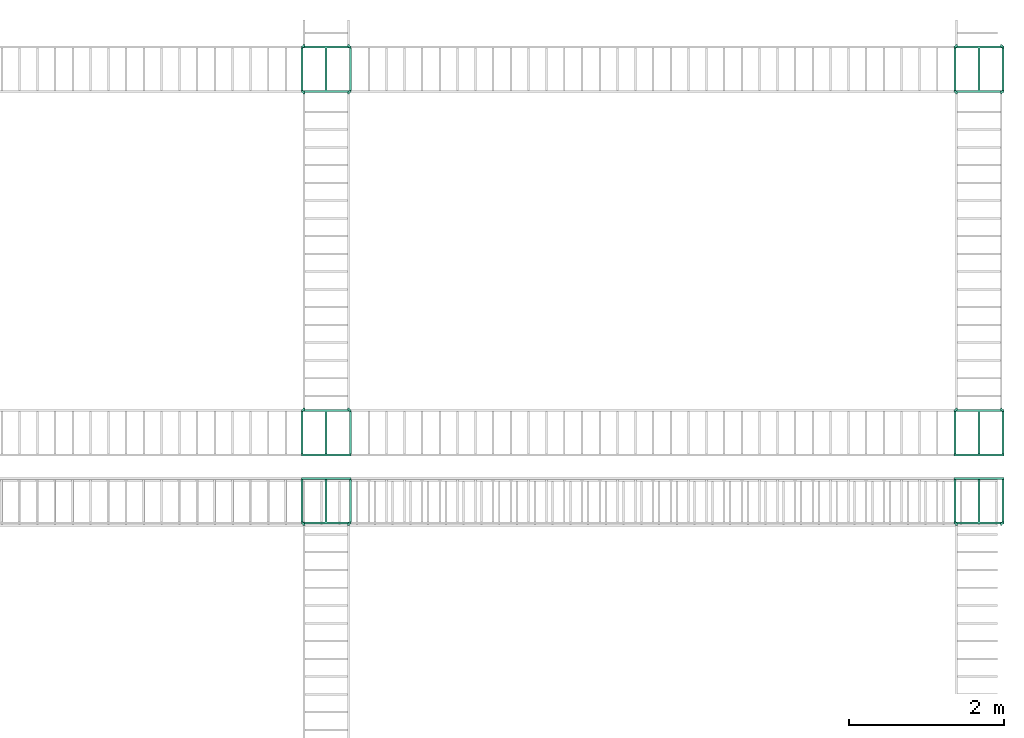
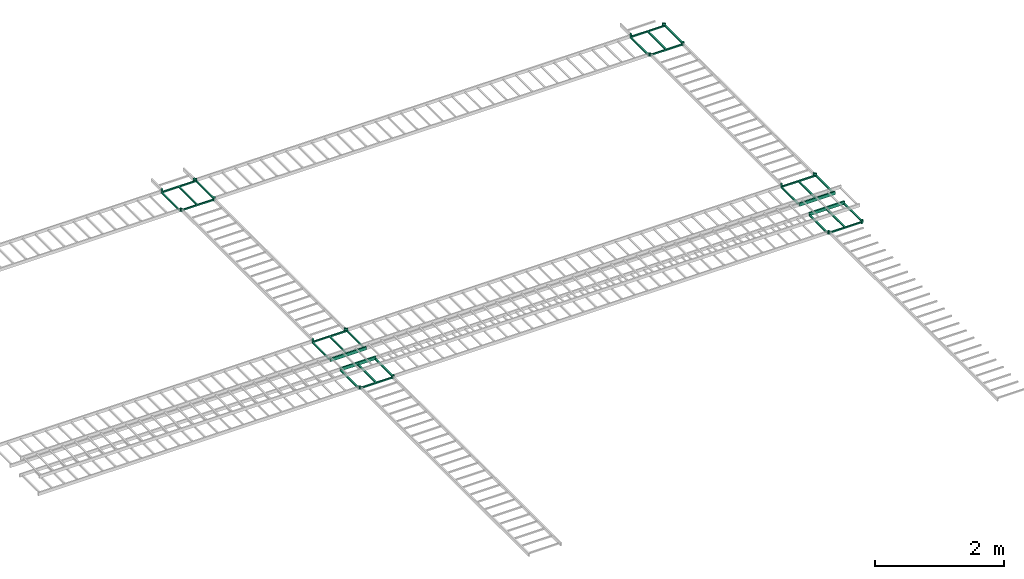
# One storey, part 2 of 7: 6 flow fittings.
"""IFC2X3 building model written with IfcOpenShell, lengths in millimetres."""

from ifc_helpers import new_model, entity, si_unit, converted_unit, derived_unit, direction, frame, origin_with_axes, place, context, subcontext, project, spatial, open_shell, surface_model, source, transform, mapped, type_object, element, save


model = new_model("IFC2X3")

# Units and contexts
model_context = context("Model", 3, precision=0.01, world=frame((0.0, 4.29681676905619e-09, 0.0)), true_north=direction((4.01073788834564e-13, 1.0)))
plan_context = context("Plan", 3, precision=0.01, world=frame((0.0, 4.29681676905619e-09, 0.0)), true_north=direction((4.01073788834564e-13, 1.0)))
body_context = subcontext(model_context, "Body", "Model", "MODEL_VIEW")
ifc_project = project(units=[converted_unit("PLANEANGLEUNIT", "DEGREE", entity("IfcPositiveLengthMeasure", 0.0174532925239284), si_unit("PLANEANGLEUNIT", "RADIAN"), dimensions=[0, 0, 0, 0, 0, 0, 0]), si_unit("AREAUNIT", "SQUARE_METRE"), si_unit("LENGTHUNIT", "METRE", prefix="MILLI"), si_unit("MASSUNIT", "GRAM", prefix="KILO"), si_unit("POWERUNIT", "WATT"), si_unit("PRESSUREUNIT", "PASCAL", prefix="KILO"), si_unit("FORCEUNIT", "NEWTON", prefix="KILO"), si_unit("ELECTRICVOLTAGEUNIT", "VOLT"), si_unit("ELECTRICCURRENTUNIT", "AMPERE"), si_unit("THERMODYNAMICTEMPERATUREUNIT", "DEGREE_CELSIUS"), si_unit("TIMEUNIT", "SECOND"), si_unit("VOLUMEUNIT", "CUBIC_METRE"), derived_unit("LINEARVELOCITYUNIT", [(si_unit("LENGTHUNIT", "METRE"), 1), (si_unit("TIMEUNIT", "SECOND"), -1)]), derived_unit("VOLUMETRICFLOWRATEUNIT", [(si_unit("VOLUMEUNIT", "CUBIC_METRE"), 1), (si_unit("TIMEUNIT", "SECOND"), -1)]), derived_unit("THERMALTRANSMITTANCEUNIT", [(si_unit("POWERUNIT", "WATT"), 1), (si_unit("THERMODYNAMICTEMPERATUREUNIT", "KELVIN"), -1), (si_unit("AREAUNIT", "SQUARE_METRE"), -1)]), derived_unit("SOUNDPRESSUREUNIT", [(si_unit("PRESSUREUNIT", "PASCAL"), 1)])], contexts=[model_context, plan_context])

# Site, building, storey
site_placement = place(None, frame((0.0, -4.29681676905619e-09, 0.0), z_axis=(0.0, 0.0, 1.0), x_axis=(1.0, 0.0, 0.0)))
site = spatial("IfcSite", under=ifc_project, at=site_placement, Name="ENGM", CompositionType="ELEMENT")
building_placement = place(site_placement, frame((0.0, 4.29681676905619e-09, 0.0), z_axis=(0.0, 0.0, 1.0), x_axis=(1.0, 0.0, 0.0)))
building = spatial("IfcBuilding", under=site, at=building_placement, Name="TS", CompositionType="ELEMENT")
storey_placement = place(building_placement, frame((0.0, 0.0, 207370.0), z_axis=(0.0, 0.0, 1.0), x_axis=(1.0, 0.0, 0.0)))
storey = spatial("IfcBuildingStorey", under=building, at=storey_placement, Name="Nivå E", CompositionType="ELEMENT", Elevation=207370.0)

# Flow fittings
cable_carrier_fitting_type_1 = type_object("IfcCableCarrierFittingType", Name="10mm Radius", PredefinedType="TEE")
shared_shape_1 = source(origin_with_axes(), body_context, "Body", "SurfaceModel", [
    surface_model("IfcShellBasedSurfaceModel", [(322.7, -274.60001, -4.6), (322.7, 274.60001, -4.6), (297.3, 274.60001, -4.6), (297.3, -274.60001, -4.6), (297.3, -274.60001, -30.0), (297.3, 274.60001, -30.0), (322.7, 274.60001, -30.0), (322.7, -274.60001, -30.0), (12.7, -274.60001, -4.6), (12.7, 274.60001, -4.6), (-12.7, 274.60001, -4.6), (-12.7, -274.60001, -4.6), (-12.7, -274.60001, -30.0), (-12.7, 274.60001, -30.0), (12.7, 274.60001, -30.0), (12.7, -274.60001, -30.0), (-297.3, -274.60001, -4.6), (-297.3, 274.60001, -4.6), (-322.7, 274.60001, -4.6), (-322.7, -274.60001, -4.6), (-322.7, -274.60001, -30.0), (-322.7, 274.60001, -30.0), (-297.3, 274.60001, -30.0), (-297.3, -274.60001, -30.0), (-310.0, -274.60001, 30.0), (-320.00002, -274.60001, 30.0), (-310.0, -300.0, 30.0), (-320.00002, -300.0, 30.0), (-307.4118, -300.34073, 30.0), (-304.99999, -301.33975, 30.0), (-292.3, -279.34271, 30.0), (-300.83781, -275.80622, 30.0), (-279.34271, -292.3, 30.0), (-284.96842, -284.96842, 30.0), (-302.92893, -302.92893, 30.0), (-301.33975, -304.99999, 30.0), (-300.34073, -307.4118, 30.0), (-275.80622, -300.83781, 30.0), (-274.60001, -310.0, 30.0), (-300.0, -310.0, 30.0), (-300.0, -320.00002, 30.0), (-274.60001, -320.00002, 30.0), (304.99999, -301.33975, 30.0), (307.4118, -300.34073, 30.0), (300.83781, -275.80622, 30.0), (292.3, -279.34271, 30.0), (284.96842, -284.96842, 30.0), (302.92893, -302.92893, 30.0), (320.00002, -274.60001, 30.0), (310.0, -274.60001, 30.0), (310.0, -300.0, 30.0), (320.00002, -300.0, 30.0), (279.34271, -292.3, 30.0), (300.34073, -307.4118, 30.0), (275.80622, -300.83781, 30.0), (274.60001, -310.0, 30.0), (300.0, -310.0, 30.0), (274.60001, -320.00002, 30.0), (300.0, -320.00002, 30.0), (301.33975, -304.99999, 30.0), (320.00002, 300.0, 30.0), (-320.00002, 300.0, 30.0), (320.00002, 274.60001, 30.0), (-320.00002, 274.60001, 30.0), (-300.0, -320.00002, -30.0), (-300.0, -310.0, -30.0), (-274.60001, -320.00002, -30.0), (-274.60001, -310.0, -30.0), (-274.96527, -304.92779, -30.0), (-300.34073, -307.4118, -30.0), (-276.0418, -300.0, -30.0), (-301.33975, -304.99999, -30.0), (300.0, -320.00002, -30.0), (274.60001, -320.00002, -30.0), (300.0, -310.0, -30.0), (274.60001, -310.0, -30.0), (274.96527, -304.92779, -30.0), (300.34073, -307.4118, -30.0), (276.0418, -300.0, -30.0), (301.33975, -304.99999, -30.0), (-304.99999, -301.33975, -30.0), (-307.4118, -300.34073, -30.0), (-320.00002, -274.60001, -30.0), (-302.92893, -302.92893, -30.0), (-320.00002, -300.0, -30.0), (-310.0, -300.0, -30.0), (320.00002, -274.60001, -30.0), (304.99999, -301.33975, -30.0), (302.92893, -302.92893, -30.0), (307.4118, -300.34073, -30.0), (310.0, -300.0, -30.0), (320.00002, -300.0, -30.0), (320.00002, 274.60001, -30.0), (-320.00002, 274.60001, -30.0), (-320.00002, 300.0, -30.0), (320.00002, 300.0, -30.0), (-276.0418, -300.0, -4.6), (-279.69674, -291.70049, -4.6), (-285.34038, -284.60191, -4.6), (-292.60234, -279.17011, -4.6), (-301.00605, -275.76158, -4.6), (-310.0, -274.60001, -4.6), (310.0, -274.60001, -4.6), (-310.0, -300.0, -4.6), (310.0, -300.0, -4.6), (301.00605, -275.76158, -4.6), (292.60234, -279.17011, -4.6), (285.34038, -284.60191, -4.6), (279.69674, -291.70049, -4.6), (276.0418, -300.0, -4.6)], [open_shell([[[0, 1, 2]], [[2, 3, 0]], [[4, 5, 6]], [[6, 7, 4]], [[2, 1, 5]], [[6, 5, 1]], [[3, 2, 5]], [[5, 4, 3]], [[0, 3, 7]], [[4, 7, 3]], [[1, 0, 7]], [[7, 6, 1]], [[8, 9, 10]], [[10, 11, 8]], [[12, 13, 14]], [[14, 15, 12]], [[10, 9, 13]], [[14, 13, 9]], [[11, 10, 13]], [[13, 12, 11]], [[8, 11, 15]], [[12, 15, 11]], [[9, 8, 15]], [[15, 14, 9]], [[16, 17, 18]], [[18, 19, 16]], [[20, 21, 22]], [[22, 23, 20]], [[18, 17, 21]], [[22, 21, 17]], [[19, 18, 21]], [[21, 20, 19]], [[16, 19, 23]], [[20, 23, 19]], [[17, 16, 23]], [[23, 22, 17]], [[24, 25, 26]], [[27, 26, 25]], [[24, 26, 28]], [[29, 30, 31]], [[32, 33, 34]], [[30, 34, 33]], [[31, 28, 29]], [[31, 24, 28]], [[35, 32, 34]], [[35, 36, 37]], [[35, 37, 32]], [[37, 36, 38]], [[39, 40, 41]], [[39, 41, 38]], [[36, 39, 38]], [[34, 30, 29]], [[42, 43, 44]], [[42, 44, 45]], [[45, 46, 47]], [[48, 49, 50]], [[43, 50, 49]], [[50, 51, 48]], [[49, 44, 43]], [[46, 52, 47]], [[53, 54, 55]], [[56, 57, 58]], [[57, 56, 55]], [[53, 55, 56]], [[42, 45, 47]], [[53, 59, 54]], [[52, 59, 47]], [[52, 54, 59]], [[60, 61, 62]], [[63, 62, 61]], [[64, 65, 66]], [[66, 65, 67]], [[68, 69, 70]], [[67, 65, 68]], [[69, 71, 70]], [[68, 65, 69]], [[72, 73, 74]], [[74, 73, 75]], [[76, 77, 74]], [[78, 79, 77]], [[77, 76, 78]], [[76, 74, 75]], [[80, 81, 82]], [[83, 80, 70]], [[84, 82, 85]], [[82, 81, 85]], [[80, 82, 70]], [[82, 86, 70]], [[87, 88, 78]], [[89, 87, 86]], [[89, 86, 90]], [[86, 87, 78]], [[86, 91, 90]], [[78, 70, 86]], [[79, 78, 88]], [[71, 83, 70]], [[92, 93, 94]], [[94, 95, 92]], [[40, 39, 65]], [[65, 64, 40]], [[41, 40, 64]], [[64, 66, 41]], [[38, 41, 67]], [[66, 67, 41]], [[38, 67, 68]], [[70, 96, 68]], [[38, 68, 96]], [[38, 96, 37]], [[32, 97, 33]], [[32, 37, 96]], [[97, 32, 96]], [[98, 99, 30]], [[100, 101, 24]], [[99, 100, 31]], [[33, 98, 30]], [[30, 99, 31]], [[100, 24, 31]], [[98, 33, 97]], [[49, 48, 102]], [[25, 24, 101]], [[102, 86, 82]], [[86, 102, 48]], [[101, 82, 25]], [[82, 101, 102]], [[27, 25, 84]], [[82, 84, 25]], [[26, 27, 103]], [[103, 84, 85]], [[84, 103, 27]], [[28, 26, 103]], [[29, 28, 103]], [[81, 103, 85]], [[103, 81, 80]], [[83, 103, 80]], [[34, 29, 103]], [[35, 34, 83]], [[71, 36, 35]], [[36, 69, 39]], [[71, 35, 83]], [[36, 71, 69]], [[39, 69, 65]], [[103, 83, 34]], [[53, 56, 77]], [[59, 53, 79]], [[77, 56, 74]], [[53, 77, 79]], [[59, 79, 88]], [[88, 47, 59]], [[42, 47, 104]], [[104, 43, 42]], [[43, 104, 50]], [[104, 87, 89]], [[89, 90, 104]], [[87, 104, 88]], [[47, 88, 104]], [[51, 50, 104]], [[104, 90, 91]], [[104, 91, 51]], [[48, 51, 86]], [[91, 86, 51]], [[49, 102, 105]], [[44, 105, 106]], [[45, 106, 107]], [[49, 105, 44]], [[44, 106, 45]], [[107, 46, 45]], [[107, 108, 46]], [[109, 78, 76]], [[109, 76, 55]], [[55, 76, 75]], [[108, 52, 46]], [[108, 109, 52]], [[52, 109, 54]], [[109, 55, 54]], [[57, 55, 75]], [[75, 73, 57]], [[58, 57, 73]], [[73, 72, 58]], [[56, 58, 72]], [[72, 74, 56]], [[61, 60, 95]], [[95, 94, 61]], [[63, 61, 94]], [[94, 93, 63]], [[62, 63, 93]], [[93, 92, 62]], [[60, 62, 92]], [[92, 95, 60]], [[105, 102, 101]], [[106, 105, 100]], [[108, 107, 98]], [[109, 108, 97]], [[106, 99, 107]], [[100, 99, 106]], [[101, 100, 105]], [[97, 96, 109]], [[98, 97, 108]], [[99, 98, 107]], [[109, 96, 70]], [[70, 78, 109]]])]),
])
for number, where, z_axis, x_axis, name in (
    (1, (720501.36631, 440025.59175, 2635.0), (0.0, 0.0, 1.0), (1.0, 0.0, 0.0), "10mm Radius"),
    (2, (728901.36631, 440025.59175, 2635.0), (0.0, 0.0, 1.0), (1.0, 0.0, 0.0), "10mm Radius"),
    (3, (720501.36631, 440899.11712, 2635.0), (0.0, 0.0, 1.0), (-1.0, 0.0, 0.0), "10mm Radius"),
    (4, (728901.36631, 440899.11712, 2635.0), (0.0, 0.0, 1.0), (-1.0, 0.0, 0.0), "10mm Radius"),
):
    element("IfcFlowFitting", number, at=place(storey_placement, frame(where, z_axis=z_axis, x_axis=x_axis)), inside=storey, type_object=cable_carrier_fitting_type_1, Name=name, context=body_context, shape_type="MappedRepresentation", body=[
        mapped(shared_shape_1, transform((0.0, 0.0, 0.0), scale=1.0)),
    ])
cable_carrier_fitting_type_2 = type_object("IfcCableCarrierFittingType", Name="10mm Radius", PredefinedType="CROSS")
shared_shape_2 = source(origin_with_axes(), body_context, "Body", "SurfaceModel", [
    surface_model("IfcShellBasedSurfaceModel", [(322.7, -274.60001, -4.6), (322.7, 274.60001, -4.6), (297.3, 274.60001, -4.6), (297.3, -274.60001, -4.6), (297.3, -274.60001, -30.0), (297.3, 274.60001, -30.0), (322.7, 274.60001, -30.0), (322.7, -274.60001, -30.0), (-12.7, -274.60001, -30.0), (-12.7, 274.60001, -30.0), (12.7, 274.60001, -30.0), (12.7, -274.60001, -30.0), (-12.7, 274.60001, -4.6), (12.7, 274.60001, -4.6), (-12.7, -274.60001, -4.6), (12.7, -274.60001, -4.6), (-297.3, -274.60001, -4.6), (-297.3, 274.60001, -4.6), (-322.7, 274.60001, -4.6), (-322.7, -274.60001, -4.6), (-322.7, -274.60001, -30.0), (-322.7, 274.60001, -30.0), (-297.3, 274.60001, -30.0), (-297.3, -274.60001, -30.0), (-310.0, -274.60001, 30.0), (-320.00002, -274.60001, 30.0), (-310.0, -300.0, 30.0), (-320.00002, -300.0, 30.0), (-307.4118, -300.34073, 30.0), (-304.99999, -301.33975, 30.0), (-292.3, -279.34271, 30.0), (-300.83781, -275.80622, 30.0), (-279.34271, -292.3, 30.0), (-284.96842, -284.96842, 30.0), (-302.92893, -302.92893, 30.0), (-301.33975, -304.99999, 30.0), (-300.34073, -307.4118, 30.0), (-275.80622, -300.83781, 30.0), (-274.60001, -310.0, 30.0), (-300.0, -310.0, 30.0), (-300.0, -320.00002, 30.0), (-274.60001, -320.00002, 30.0), (304.99999, -301.33975, 30.0), (307.4118, -300.34073, 30.0), (300.83781, -275.80622, 30.0), (292.3, -279.34271, 30.0), (284.96842, -284.96842, 30.0), (302.92893, -302.92893, 30.0), (320.00002, -274.60001, 30.0), (310.0, -274.60001, 30.0), (310.0, -300.0, 30.0), (320.00002, -300.0, 30.0), (279.34271, -292.3, 30.0), (300.34073, -307.4118, 30.0), (275.80622, -300.83781, 30.0), (274.60001, -310.0, 30.0), (300.0, -310.0, 30.0), (274.60001, -320.00002, 30.0), (300.0, -320.00002, 30.0), (301.33975, -304.99999, 30.0), (-300.0, -320.00002, -30.0), (-300.0, -310.0, -30.0), (-274.60001, -320.00002, -30.0), (-274.60001, -310.0, -30.0), (-274.96527, -304.92779, -30.0), (-300.34073, -307.4118, -30.0), (-276.0418, -300.0, -30.0), (-301.33975, -304.99999, -30.0), (300.0, -320.00002, -30.0), (274.60001, -320.00002, -30.0), (300.0, -310.0, -30.0), (274.60001, -310.0, -30.0), (274.96527, -304.92779, -30.0), (300.34073, -307.4118, -30.0), (276.0418, -300.0, -30.0), (301.33975, -304.99999, -30.0), (-304.99999, -301.33975, -30.0), (-307.4118, -300.34073, -30.0), (-320.00002, -274.60001, -30.0), (-302.92893, -302.92893, -30.0), (-320.00002, -300.0, -30.0), (-310.0, -300.0, -30.0), (320.00002, -274.60001, -30.0), (304.99999, -301.33975, -30.0), (302.92893, -302.92893, -30.0), (307.4118, -300.34073, -30.0), (310.0, -300.0, -30.0), (320.00002, -300.0, -30.0), (-276.0418, -300.0, -4.6), (-279.69674, -291.70049, -4.6), (-285.34038, -284.60191, -4.6), (-292.60234, -279.17011, -4.6), (-301.00605, -275.76158, -4.6), (-310.0, -274.60001, -4.6), (310.0, -274.60001, -4.6), (-310.0, -300.0, -4.6), (310.0, -300.0, -4.6), (301.00605, -275.76158, -4.6), (292.60234, -279.17011, -4.6), (285.34038, -284.60191, -4.6), (279.69674, -291.70049, -4.6), (276.0418, -300.0, -4.6), (-300.34073, 307.4118, 30.0), (-301.33975, 304.99999, 30.0), (-275.80622, 300.83781, 30.0), (-279.34271, 292.3, 30.0), (-302.92893, 302.92893, 30.0), (-274.60001, 320.00002, 30.0), (-300.0, 320.00002, 30.0), (-300.0, 310.0, 30.0), (-274.60001, 310.0, 30.0), (-304.99999, 301.33975, 30.0), (-292.3, 279.34271, 30.0), (-310.0, 300.0, 30.0), (-320.00002, 300.0, 30.0), (-320.00002, 274.60001, 30.0), (-310.0, 274.60001, 30.0), (-307.4118, 300.34073, 30.0), (-300.83781, 275.80622, 30.0), (-284.96842, 284.96842, 30.0), (274.60001, 320.00002, 30.0), (300.0, 310.0, 30.0), (300.0, 320.00002, 30.0), (274.60001, 310.0, 30.0), (300.34073, 307.4118, 30.0), (275.80622, 300.83781, 30.0), (279.34271, 292.3, 30.0), (302.92893, 302.92893, 30.0), (301.33975, 304.99999, 30.0), (292.3, 279.34271, 30.0), (304.99999, 301.33975, 30.0), (284.96842, 284.96842, 30.0), (300.83781, 275.80622, 30.0), (307.4118, 300.34073, 30.0), (310.0, 300.0, 30.0), (310.0, 274.60001, 30.0), (320.00002, 274.60001, 30.0), (320.00002, 300.0, 30.0), (-276.0418, 300.0, -30.0), (-320.00002, 274.60001, -30.0), (-304.99999, 301.33975, -30.0), (-310.0, 300.0, -30.0), (-320.00002, 300.0, -30.0), (-307.4118, 300.34073, -30.0), (320.00002, 274.60001, -30.0), (-302.92893, 302.92893, -30.0), (310.0, 300.0, -30.0), (307.4118, 300.34073, -30.0), (276.0418, 300.0, -30.0), (304.99999, 301.33975, -30.0), (320.00002, 300.0, -30.0), (302.92893, 302.92893, -30.0), (301.33975, 304.99999, -30.0), (-301.33975, 304.99999, -30.0), (-300.34073, 307.4118, -30.0), (-274.96527, 304.92779, -30.0), (-300.0, 310.0, -30.0), (-300.0, 320.00002, -30.0), (-274.60001, 320.00002, -30.0), (-274.60001, 310.0, -30.0), (300.34073, 307.4118, -30.0), (274.96527, 304.92779, -30.0), (300.0, 310.0, -30.0), (274.60001, 310.0, -30.0), (274.60001, 320.00002, -30.0), (300.0, 320.00002, -30.0), (279.69674, 291.70049, -4.6), (276.0418, 300.0, -4.6), (-276.0418, 300.0, -4.6), (285.34038, 284.60191, -4.6), (-279.69674, 291.70049, -4.6), (301.00605, 275.76158, -4.6), (292.60234, 279.17011, -4.6), (-301.00605, 275.76158, -4.6), (310.0, 274.60001, -4.6), (-310.0, 274.60001, -4.6), (-292.60234, 279.17011, -4.6), (-285.34038, 284.60191, -4.6), (-310.0, 300.0, -4.6), (310.0, 300.0, -4.6)], [open_shell([[[0, 1, 2]], [[2, 3, 0]], [[4, 5, 6]], [[6, 7, 4]], [[2, 1, 5]], [[6, 5, 1]], [[3, 2, 5]], [[5, 4, 3]], [[0, 3, 7]], [[4, 7, 3]], [[1, 0, 7]], [[7, 6, 1]], [[8, 9, 10]], [[10, 11, 8]], [[12, 13, 9]], [[10, 9, 13]], [[14, 12, 9]], [[9, 8, 14]], [[15, 14, 11]], [[8, 11, 14]], [[13, 15, 11]], [[11, 10, 13]], [[16, 17, 18]], [[18, 19, 16]], [[20, 21, 22]], [[22, 23, 20]], [[18, 17, 21]], [[22, 21, 17]], [[19, 18, 21]], [[21, 20, 19]], [[16, 19, 23]], [[20, 23, 19]], [[17, 16, 23]], [[23, 22, 17]], [[24, 25, 26]], [[27, 26, 25]], [[24, 26, 28]], [[29, 30, 31]], [[32, 33, 34]], [[30, 34, 33]], [[31, 28, 29]], [[31, 24, 28]], [[35, 32, 34]], [[35, 36, 37]], [[35, 37, 32]], [[37, 36, 38]], [[39, 40, 41]], [[39, 41, 38]], [[36, 39, 38]], [[34, 30, 29]], [[42, 43, 44]], [[42, 44, 45]], [[45, 46, 47]], [[48, 49, 50]], [[43, 50, 49]], [[50, 51, 48]], [[49, 44, 43]], [[46, 52, 47]], [[53, 54, 55]], [[56, 57, 58]], [[57, 56, 55]], [[53, 55, 56]], [[42, 45, 47]], [[53, 59, 54]], [[52, 59, 47]], [[52, 54, 59]], [[60, 61, 62]], [[62, 61, 63]], [[64, 65, 66]], [[63, 61, 64]], [[65, 67, 66]], [[64, 61, 65]], [[68, 69, 70]], [[70, 69, 71]], [[72, 73, 70]], [[74, 75, 73]], [[73, 72, 74]], [[72, 70, 71]], [[76, 77, 78]], [[79, 76, 66]], [[80, 78, 81]], [[78, 77, 81]], [[76, 78, 66]], [[78, 82, 66]], [[83, 84, 74]], [[85, 83, 82]], [[85, 82, 86]], [[82, 83, 74]], [[82, 87, 86]], [[74, 66, 82]], [[75, 74, 84]], [[67, 79, 66]], [[41, 40, 60]], [[60, 62, 41]], [[38, 41, 63]], [[62, 63, 41]], [[38, 63, 64]], [[66, 88, 64]], [[38, 64, 88]], [[38, 88, 37]], [[32, 89, 33]], [[32, 37, 88]], [[89, 32, 88]], [[90, 91, 30]], [[92, 93, 24]], [[91, 92, 31]], [[33, 90, 30]], [[30, 91, 31]], [[92, 24, 31]], [[90, 33, 89]], [[49, 48, 94]], [[25, 24, 93]], [[94, 82, 78]], [[82, 94, 48]], [[93, 78, 25]], [[78, 93, 94]], [[27, 25, 80]], [[78, 80, 25]], [[26, 27, 95]], [[95, 80, 81]], [[80, 95, 27]], [[28, 26, 95]], [[29, 28, 95]], [[77, 95, 81]], [[95, 77, 76]], [[79, 95, 76]], [[34, 29, 95]], [[35, 34, 79]], [[67, 36, 35]], [[36, 65, 39]], [[67, 35, 79]], [[36, 67, 65]], [[39, 65, 61]], [[95, 79, 34]], [[53, 56, 73]], [[59, 53, 75]], [[73, 56, 70]], [[53, 73, 75]], [[59, 75, 84]], [[84, 47, 59]], [[42, 47, 96]], [[96, 43, 42]], [[43, 96, 50]], [[96, 83, 85]], [[85, 86, 96]], [[83, 96, 84]], [[47, 84, 96]], [[51, 50, 96]], [[96, 86, 87]], [[96, 87, 51]], [[48, 51, 82]], [[87, 82, 51]], [[49, 94, 97]], [[44, 97, 98]], [[45, 98, 99]], [[49, 97, 44]], [[44, 98, 45]], [[99, 46, 45]], [[99, 100, 46]], [[101, 74, 72]], [[101, 72, 55]], [[55, 72, 71]], [[100, 52, 46]], [[100, 101, 52]], [[52, 101, 54]], [[101, 55, 54]], [[58, 57, 69]], [[69, 68, 58]], [[97, 94, 93]], [[98, 97, 92]], [[98, 91, 99]], [[92, 91, 98]], [[93, 92, 97]], [[91, 90, 99]], [[101, 88, 66]], [[66, 74, 101]], [[15, 13, 14]], [[12, 14, 13]], [[102, 103, 104]], [[105, 103, 106]], [[104, 103, 105]], [[107, 108, 109]], [[102, 110, 109]], [[110, 102, 104]], [[109, 110, 107]], [[106, 111, 112]], [[113, 114, 115]], [[115, 116, 113]], [[113, 116, 117]], [[117, 118, 111]], [[106, 119, 105]], [[112, 119, 106]], [[111, 118, 112]], [[117, 116, 118]], [[120, 121, 122]], [[121, 120, 123]], [[121, 123, 124]], [[124, 123, 125]], [[126, 127, 128]], [[129, 130, 127]], [[124, 125, 128]], [[126, 128, 125]], [[131, 129, 127]], [[129, 132, 130]], [[130, 132, 133]], [[134, 135, 136]], [[135, 134, 133]], [[134, 136, 137]], [[133, 132, 135]], [[131, 127, 126]], [[138, 139, 140]], [[141, 139, 142]], [[143, 139, 141]], [[139, 138, 144]], [[140, 145, 138]], [[143, 140, 139]], [[146, 144, 147]], [[148, 144, 138]], [[149, 144, 148]], [[144, 146, 150]], [[151, 149, 148]], [[149, 147, 144]], [[151, 148, 152]], [[153, 138, 145]], [[138, 154, 155]], [[154, 138, 153]], [[155, 154, 156]], [[156, 157, 158]], [[158, 159, 156]], [[156, 159, 155]], [[160, 152, 148]], [[160, 161, 162]], [[160, 148, 161]], [[163, 164, 162]], [[165, 162, 164]], [[163, 162, 161]], [[40, 39, 60]], [[61, 60, 39]], [[57, 55, 69]], [[71, 69, 55]], [[56, 58, 70]], [[68, 70, 58]], [[100, 99, 89]], [[101, 100, 88]], [[89, 88, 100]], [[90, 89, 99]], [[166, 167, 168]], [[169, 166, 170]], [[171, 172, 173]], [[174, 171, 175]], [[169, 176, 172]], [[170, 177, 169]], [[168, 170, 166]], [[173, 175, 171]], [[176, 173, 172]], [[177, 176, 169]], [[107, 110, 158]], [[159, 158, 110]], [[108, 107, 158]], [[158, 157, 108]], [[109, 108, 156]], [[157, 156, 108]], [[102, 109, 154]], [[103, 102, 153]], [[154, 109, 156]], [[102, 154, 153]], [[103, 153, 145]], [[145, 106, 103]], [[111, 106, 178]], [[178, 117, 111]], [[117, 178, 113]], [[178, 140, 143]], [[143, 141, 178]], [[140, 178, 145]], [[106, 145, 178]], [[114, 113, 178]], [[178, 141, 142]], [[178, 142, 114]], [[115, 114, 139]], [[142, 139, 114]], [[116, 115, 175]], [[136, 135, 174]], [[175, 139, 144]], [[139, 175, 115]], [[174, 144, 136]], [[144, 174, 175]], [[116, 175, 173]], [[118, 173, 176]], [[112, 176, 177]], [[116, 173, 118]], [[118, 176, 112]], [[177, 119, 112]], [[177, 170, 119]], [[168, 138, 155]], [[168, 155, 110]], [[110, 155, 159]], [[170, 105, 119]], [[170, 168, 105]], [[105, 168, 104]], [[168, 110, 104]], [[123, 163, 161]], [[161, 148, 167]], [[125, 123, 167]], [[167, 126, 125]], [[126, 167, 166]], [[123, 161, 167]], [[166, 131, 126]], [[129, 169, 172]], [[132, 172, 171]], [[135, 171, 174]], [[131, 169, 129]], [[129, 172, 132]], [[171, 135, 132]], [[169, 131, 166]], [[137, 136, 150]], [[144, 150, 136]], [[134, 137, 179]], [[179, 150, 146]], [[150, 179, 137]], [[133, 134, 179]], [[130, 133, 179]], [[147, 179, 146]], [[179, 147, 149]], [[151, 179, 149]], [[127, 130, 179]], [[128, 127, 152]], [[124, 128, 160]], [[121, 124, 160]], [[152, 127, 151]], [[160, 128, 152]], [[160, 162, 121]], [[179, 151, 127]], [[122, 121, 162]], [[162, 165, 122]], [[120, 122, 165]], [[165, 164, 120]], [[123, 120, 163]], [[164, 163, 120]], [[168, 167, 148]], [[148, 138, 168]]])]),
])
for number, where, z_axis, x_axis, name in (
    (5, (720501.36631, 445578.66952, 2635.0), (0.0, 0.0, 1.0), (1.0, 0.0, 0.0), "10mm Radius"),
    (6, (728901.36631, 445578.66952, 2635.0), (0.0, 0.0, 1.0), (1.0, 0.0, 0.0), "10mm Radius"),
):
    element("IfcFlowFitting", number, at=place(storey_placement, frame(where, z_axis=z_axis, x_axis=x_axis)), inside=storey, type_object=cable_carrier_fitting_type_2, Name=name, context=body_context, shape_type="MappedRepresentation", body=[
        mapped(shared_shape_2, transform((0.0, 0.0, 0.0), scale=1.0)),
    ])

save(model, "model.ifc")
